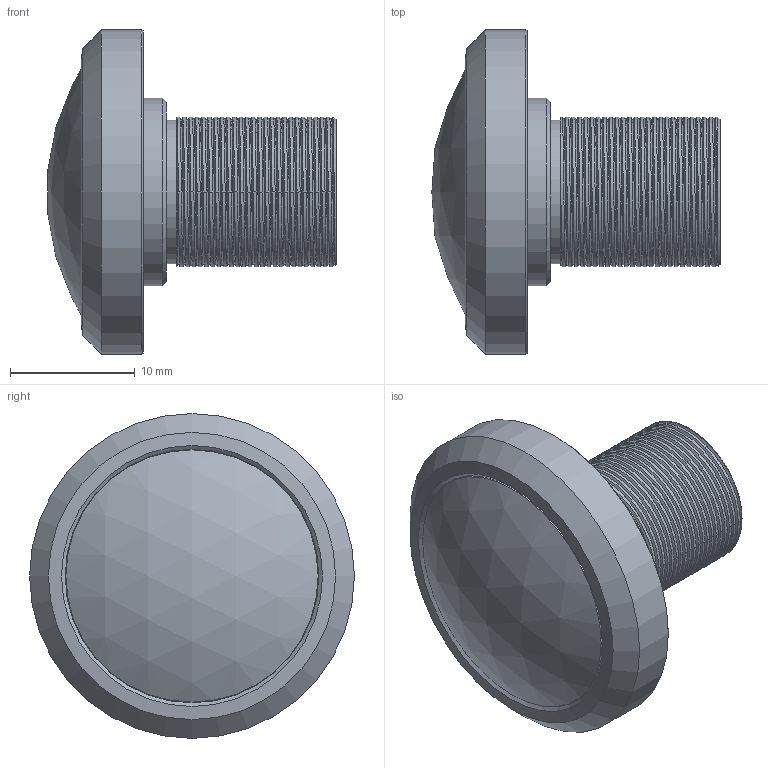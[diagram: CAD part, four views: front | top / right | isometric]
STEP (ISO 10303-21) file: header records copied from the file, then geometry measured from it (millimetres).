
FILE_DESCRIPTION(/* description */ (''),/* implementation_level */ '2;1');
FILE_NAME(/* name */ 'C:\Users\MaxHenkart\Desktop\Commonlands\Product\CIL216\CIL216-F2.2-M12A650 v1.stp',/* time_stamp */ '2022-08-04T15:58:25-07:00',/* author */ ('MaxHenkart'),/* organization */ ('Commonlands'),/* preprocessor_version */ 'ST-DEVELOPER v19',/* originating_system */ 'Autodesk Inventor 2023',/* authorisation */ '');
FILE_SCHEMA (('AUTOMOTIVE_DESIGN { 1 0 10303 214 3 1 1 }'));
Length unit declared in the file: millimetre
Products named in the file (1): CIL216-F2.2-M12A650 v1
Bounding box: 23.07 x 26 x 26 mm (x, y, z)
Volume: 4725.5 mm3; surface area: 2382.8 mm2
Topology: 1 solids, 2 shells, 71 faces, 177 edges, 117 vertices
Faces by surface type: cylinder 33, bspline 14, plane 13, cone 9, sphere 2
Full cylindrical faces by diameter (mm): 3.8 x1, 9 x1, 11.5 x1, 12 x24, 15 x1, 20.2 x1, 20.3 x1, 26 x1
Entity records: 11585 total; most frequent: CARTESIAN_POINT 10024, ORIENTED_EDGE 354, DIRECTION 239, EDGE_CURVE 177, VERTEX_POINT 117, AXIS2_PLACEMENT_3D 89, B_SPLINE_CURVE_WITH_KNOTS 85, EDGE_LOOP 78
